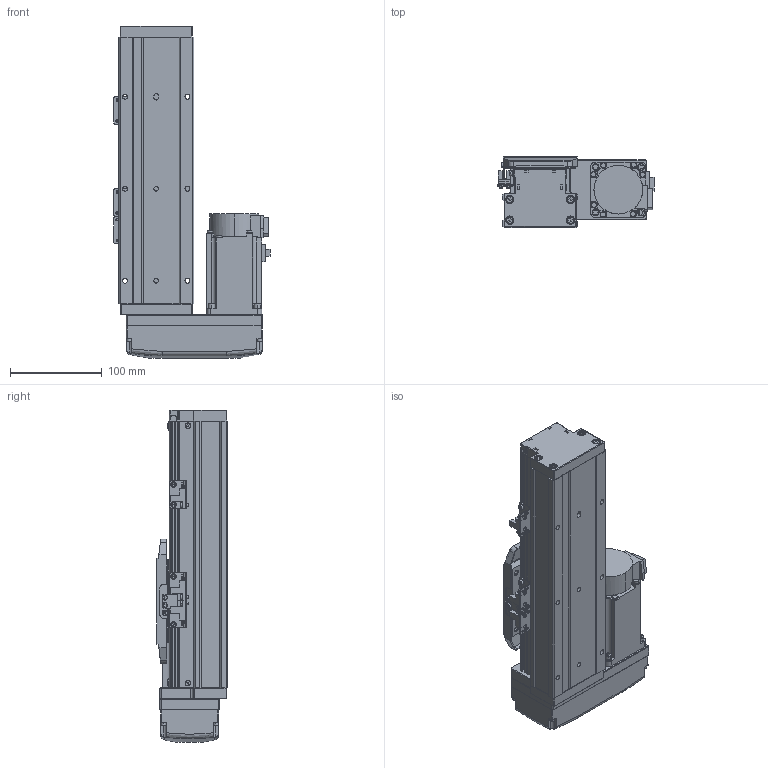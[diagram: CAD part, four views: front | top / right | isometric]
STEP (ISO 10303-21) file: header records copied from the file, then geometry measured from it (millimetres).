
FILE_DESCRIPTION (( 'STEP AP203' ), '1' );
FILE_NAME ('GTH8-100-BR-M20-C4.step', '2022-09-23T01:08:36', ( '微软用户' ), ( '微软中国' ), 'SwSTEP 2.0', 'SolidWorks 2020', '' );
FILE_SCHEMA (( 'CONFIG_CONTROL_DESIGN' ));
Length unit declared in the file: millimetre
Products named in the file (18): BTH-M3X5X6; GTH80-001_100; GBT 70.1-M3℅6; hg-kn43j_-s100_; GTH80-003; GBT 70.1-M4×16; CTHA86-015-1_CTHA86-015-2; GTH80-004; GTH80-028; CTHA86-033_M40B; GTH80-006; GTH50-024; GTH8-100-BR-M20-C4; GTH80-013; GTH50-023; GBT 70.3-M3℅6; GBT96.1-2002 3×0.8; GTH80-022
Assembly tree (57 placements, depth 2):
  GTH8-100-BR-M20-C4
    GTH80-001_100
    GTH80-003
    GTH80-004
    GTH80-006
    GTH80-013
    GBT 70.3-M3℅6  x4
    GTH80-022
    GBT 70.1-M3℅6  x14
    GBT 70.1-M4×16  x8
    GTH80-028  x2
    GTH50-024  x3
    GTH50-023  x3
    GBT96.1-2002 3×0.8  x6
    BTH-M3X5X6  x8
    hg-kn43j_-s100_
    CTHA86-015-1_CTHA86-015-2
    CTHA86-033_M40B
Bounding box: 169.7 x 78 x 361 mm (x, y, z)
Volume: 2248610.3 mm3; surface area: 295505.3 mm2
Topology: 59 solids, 59 shells, 2220 faces, 5115 edges, 3131 vertices
Faces by surface type: plane 1187, cylinder 591, cone 260, torus 166, bspline 8, sphere 8
Entity records: 40182 total; most frequent: CARTESIAN_POINT 7073, DIRECTION 6509, ORIENTED_EDGE 6048, EDGE_CURVE 3024, AXIS2_PLACEMENT_3D 2265, VECTOR 1979, LINE 1979, VERTEX_POINT 1906
